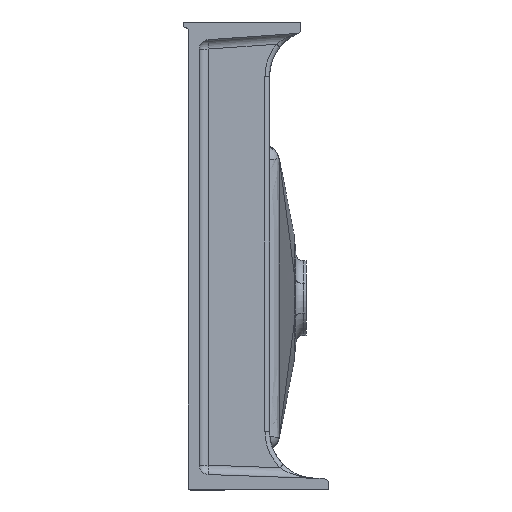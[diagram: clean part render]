
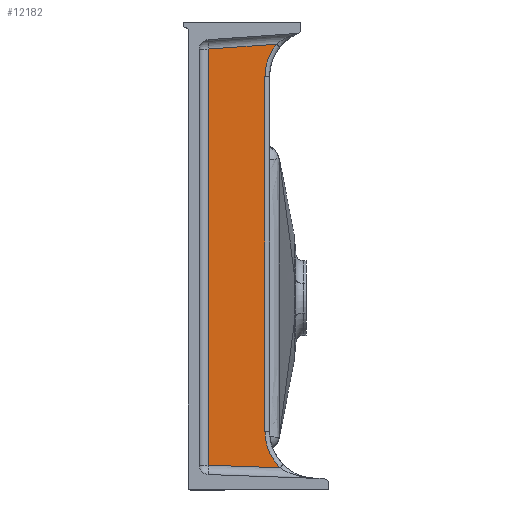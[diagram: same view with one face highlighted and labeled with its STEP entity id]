
A CAD part, left-side view. The second image highlights one B-rep face of the part: STEP entity #12182.
In plain terms, the highlighted planar face has unit normal (-1, -0.018, 0).
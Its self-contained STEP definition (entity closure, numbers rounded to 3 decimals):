
#286 = CARTESIAN_POINT ( 'NONE',  ( -1055.874, -94.229, 271.186 ) ) ;
#682 = CARTESIAN_POINT ( 'NONE',  ( -1056.655, -49.487, 268.057 ) ) ;
#915 = ORIENTED_EDGE ( 'NONE', *, *, #5954, .T. ) ;
#1471 = CARTESIAN_POINT ( 'NONE',  ( -1056., -87., -268.571 ) ) ;
#1575 = CARTESIAN_POINT ( 'NONE',  ( -1056.086, -82.087, -142.516 ) ) ;
#1920 = CARTESIAN_POINT ( 'NONE',  ( -1056.086, -82.087, 236.716 ) ) ;
#2064 =( BOUNDED_CURVE ( )  B_SPLINE_CURVE ( 3, ( #9215, #15775, #17091, #1575 ),
 .UNSPECIFIED., .F., .F. ) 
 B_SPLINE_CURVE_WITH_KNOTS ( ( 4, 4 ),
 ( 5.504, 6.283 ),
 .UNSPECIFIED. ) 
 CURVE ( )  GEOMETRIC_REPRESENTATION_ITEM ( )  RATIONAL_B_SPLINE_CURVE ( ( 1., 0.95, 0.95, 1. ) ) 
 REPRESENTATION_ITEM ( '' )  );
#3139 = ORIENTED_EDGE ( 'NONE', *, *, #11830, .T. ) ;
#3188 = CARTESIAN_POINT ( 'NONE',  ( -1057.138, -21.825, 266.123 ) ) ;
#3738 = ORIENTED_EDGE ( 'NONE', *, *, #18942, .T. ) ;
#3927 = VECTOR ( 'NONE', #9861, 1000. ) ;
#4154 = CARTESIAN_POINT ( 'NONE',  ( -1056.086, -82.087, 236.716 ) ) ;
#4589 = DIRECTION ( 'NONE',  ( 1., 0.017, 0. ) ) ;
#4846 = LINE ( 'NONE', #15709, #3927 ) ;
#4893 = VERTEX_POINT ( 'NONE', #6727 ) ;
#5250 = VERTEX_POINT ( 'NONE', #19217 ) ;
#5339 = EDGE_LOOP ( 'NONE', ( #3139, #18469, #6182, #915, #3738, #5898 ) ) ;
#5898 = ORIENTED_EDGE ( 'NONE', *, *, #7118, .T. ) ;
#5954 = EDGE_CURVE ( 'NONE', #19380, #8849, #9996, .T. ) ;
#6182 = ORIENTED_EDGE ( 'NONE', *, *, #7024, .T. ) ;
#6727 = CARTESIAN_POINT ( 'NONE',  ( -1057.138, -21.825, -178.524 ) ) ;
#7024 = EDGE_CURVE ( 'NONE', #13454, #19380, #9455, .T. ) ;
#7118 = EDGE_CURVE ( 'NONE', #9771, #4893, #4846, .T. ) ;
#8849 = VERTEX_POINT ( 'NONE', #286 ) ;
#8992 = VECTOR ( 'NONE', #12973, 1000. ) ;
#9215 = CARTESIAN_POINT ( 'NONE',  ( -1055.808, -97.974, -181.183 ) ) ;
#9455 = LINE ( 'NONE', #15320, #15825 ) ;
#9771 = VERTEX_POINT ( 'NONE', #3188 ) ;
#9861 = DIRECTION ( 'NONE',  ( 0., 0., -1. ) ) ;
#9996 =( BOUNDED_CURVE ( )  B_SPLINE_CURVE ( 3, ( #1920, #12798, #17666, #11284 ),
 .UNSPECIFIED., .F., .F. ) 
 B_SPLINE_CURVE_WITH_KNOTS ( ( 4, 4 ),
 ( 3.142, 3.819 ),
 .UNSPECIFIED. ) 
 CURVE ( )  GEOMETRIC_REPRESENTATION_ITEM ( )  RATIONAL_B_SPLINE_CURVE ( ( 1., 0.962, 0.962, 1. ) ) 
 REPRESENTATION_ITEM ( '' )  );
#10470 = LINE ( 'NONE', #16623, #18149 ) ;
#11284 = CARTESIAN_POINT ( 'NONE',  ( -1055.874, -94.229, 271.186 ) ) ;
#11388 = AXIS2_PLACEMENT_3D ( 'NONE', #1471, #4589, #12336 ) ;
#11830 = EDGE_CURVE ( 'NONE', #4893, #5250, #10470, .T. ) ;
#12182 = ADVANCED_FACE ( 'NONE', ( #18294 ), #19804, .F. ) ;
#12336 = DIRECTION ( 'NONE',  ( -0.017, 1., 0. ) ) ;
#12687 = DIRECTION ( 'NONE',  ( 0., 0., 1. ) ) ;
#12798 = CARTESIAN_POINT ( 'NONE',  ( -1056.086, -82.087, 249.377 ) ) ;
#12973 = DIRECTION ( 'NONE',  ( -0.017, 0.997, -0.07 ) ) ;
#13454 = VERTEX_POINT ( 'NONE', #18569 ) ;
#13809 = DIRECTION ( 'NONE',  ( 0.017, -0.999, -0.035 ) ) ;
#14491 = LINE ( 'NONE', #682, #8992 ) ;
#15320 = CARTESIAN_POINT ( 'NONE',  ( -1056.086, -82.087, -268.571 ) ) ;
#15709 = CARTESIAN_POINT ( 'NONE',  ( -1057.138, -21.825, -268.571 ) ) ;
#15775 = CARTESIAN_POINT ( 'NONE',  ( -1055.988, -87.662, -170.752 ) ) ;
#15825 = VECTOR ( 'NONE', #12687, 1000. ) ;
#16226 = EDGE_CURVE ( 'NONE', #5250, #13454, #2064, .T. ) ;
#16623 = CARTESIAN_POINT ( 'NONE',  ( -1055.152, -135.604, -182.497 ) ) ;
#17091 = CARTESIAN_POINT ( 'NONE',  ( -1056.086, -82.087, -157.184 ) ) ;
#17666 = CARTESIAN_POINT ( 'NONE',  ( -1056.012, -86.294, 261.319 ) ) ;
#18149 = VECTOR ( 'NONE', #13809, 1000. ) ;
#18294 = FACE_OUTER_BOUND ( 'NONE', #5339, .T. ) ;
#18469 = ORIENTED_EDGE ( 'NONE', *, *, #16226, .T. ) ;
#18569 = CARTESIAN_POINT ( 'NONE',  ( -1056.086, -82.087, -142.516 ) ) ;
#18942 = EDGE_CURVE ( 'NONE', #8849, #9771, #14491, .T. ) ;
#19217 = CARTESIAN_POINT ( 'NONE',  ( -1055.808, -97.974, -181.183 ) ) ;
#19380 = VERTEX_POINT ( 'NONE', #4154 ) ;
#19804 = PLANE ( 'NONE',  #11388 ) ;
